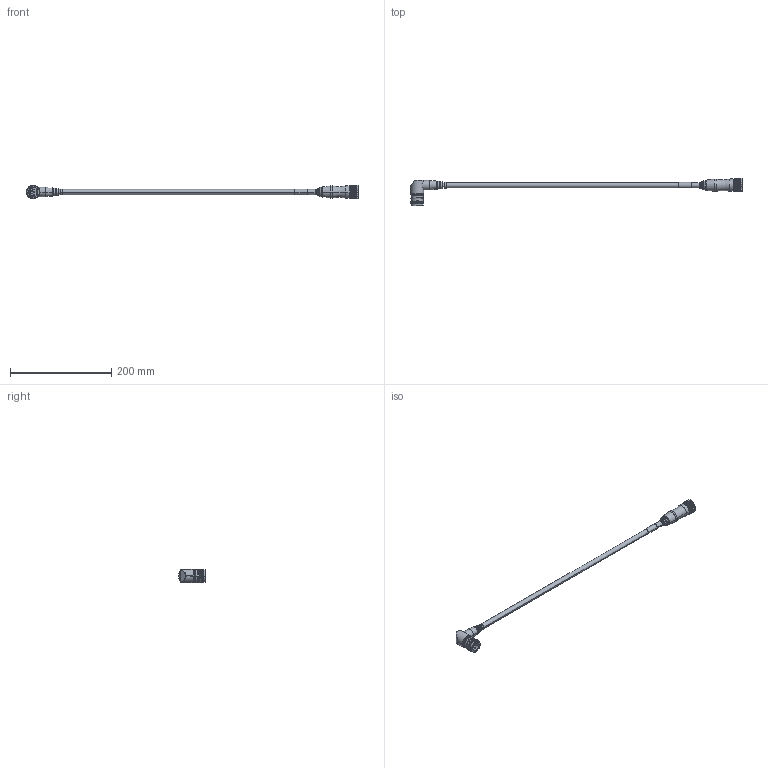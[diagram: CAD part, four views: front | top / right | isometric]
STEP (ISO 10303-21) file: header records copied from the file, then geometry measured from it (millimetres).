
FILE_DESCRIPTION((''),'2;1');
FILE_NAME('889M-FX9AEME-2_ASM','2015-06-15T',('20066374'),('Rockwell Automation'),'PRO/ENGINEER BY PARAMETRIC TECHNOLOGY CORPORATION, 2009140','PRO/ENGINEER BY PARAMETRIC TECHNOLOGY CORPORATION, 2009140','');
FILE_SCHEMA(('CONFIG_CONTROL_DESIGN'));
Length unit declared in the file: millimetre
Products named in the file (3): 889M-FX9AE-2; 889M-EX9AE-2; 889M-FX9AEME-2_ASM
Assembly tree (2 placements, depth 2):
  889M-FX9AEME-2_ASM
    889M-FX9AE-2
    889M-EX9AE-2
Bounding box: 656.41 x 53.49 x 26.2 mm (x, y, z)
Volume: 98737.8 mm3; surface area: 35596.1 mm2
Topology: 2 solids, 3 shells, 443 faces, 1111 edges, 688 vertices
Faces by surface type: plane 236, cylinder 148, cone 40, torus 13, bspline 4, sphere 2
Entity records: 14493 total; most frequent: CARTESIAN_POINT 3572, DIRECTION 2381, ORIENTED_EDGE 2222, EDGE_CURVE 1111, AXIS2_PLACEMENT_3D 905, VERTEX_POINT 688, VECTOR 571, LINE 571
